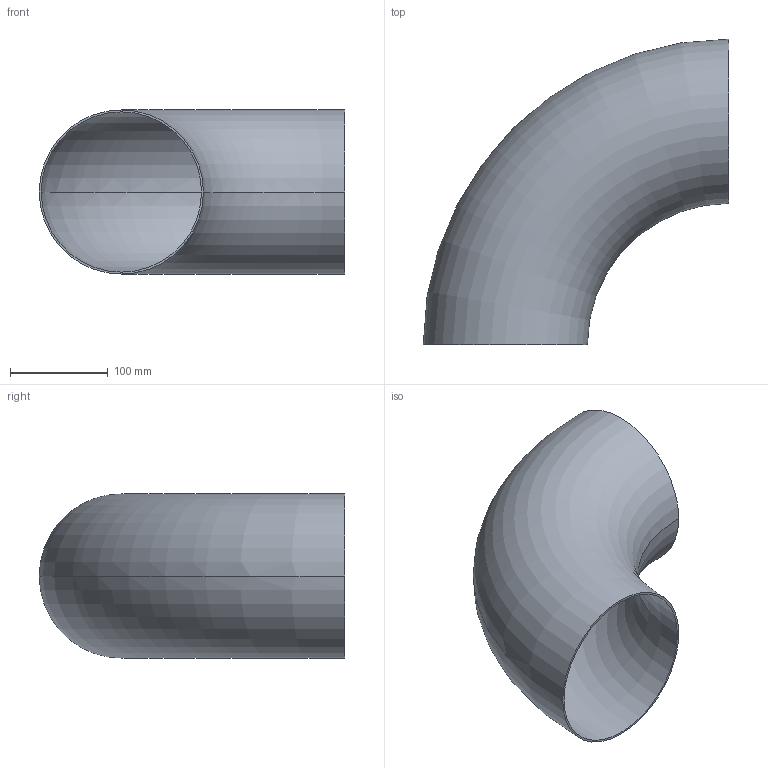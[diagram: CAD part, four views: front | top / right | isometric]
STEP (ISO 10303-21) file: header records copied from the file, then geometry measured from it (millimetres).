
FILE_DESCRIPTION (( 'STEP AP203' ), '1' );
FILE_NAME ('OT200-150-168_3x2_OSTP.step', '2020-12-16T02:52:21', ( '' ), ( '' ), 'SwSTEP 2.0', 'SolidWorks 2014', '' );
FILE_SCHEMA (( 'CONFIG_CONTROL_DESIGN' ));
Length unit declared in the file: millimetre
Products named in the file (1): OT200-150-168_3x2_OSTP
Bounding box: 313.15 x 313.15 x 168.3 mm (x, y, z)
Volume: 375861.2 mm3; surface area: 377951 mm2
Topology: 1 solids, 1 shells, 6 faces, 12 edges, 8 vertices
Faces by surface type: torus 4, plane 2
Entity records: 249 total; most frequent: DIRECTION 38, CARTESIAN_POINT 27, ORIENTED_EDGE 24, AXIS2_PLACEMENT_3D 19, CIRCLE 12, EDGE_CURVE 12, VERTEX_POINT 8, EDGE_LOOP 8
